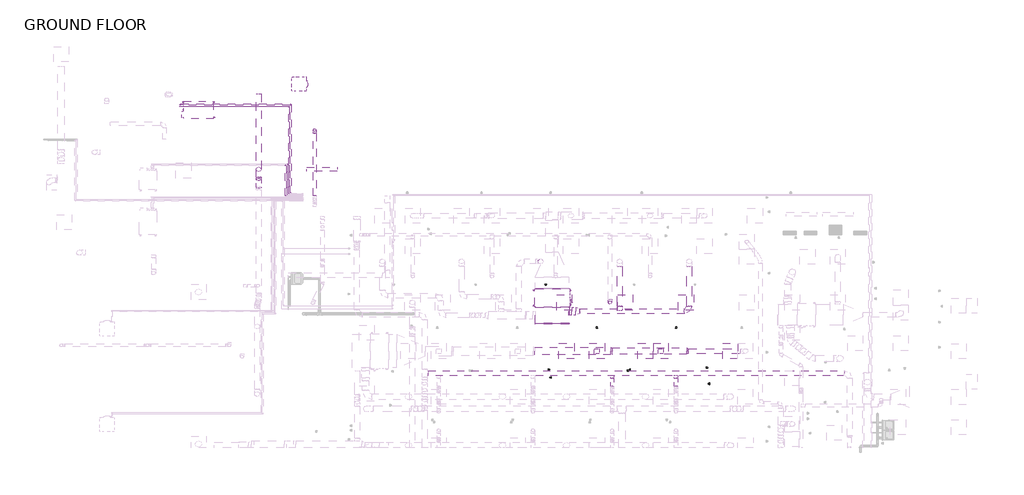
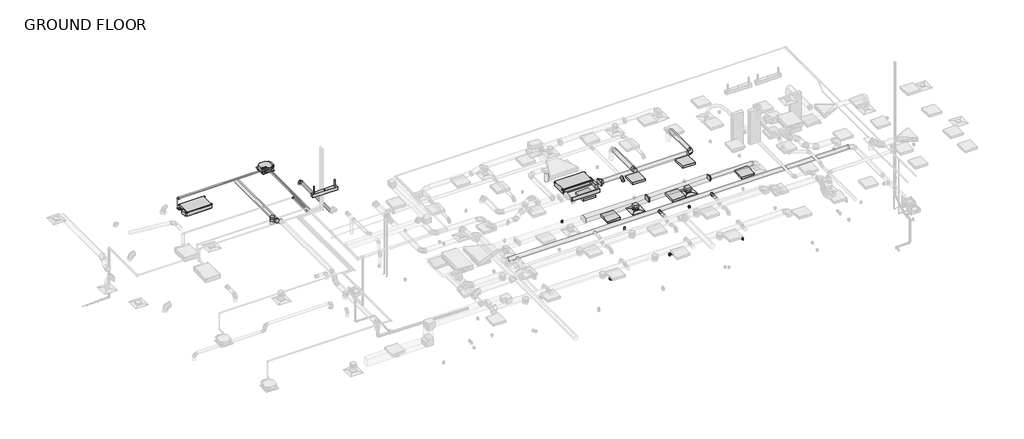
# One storey, part 17 of 21: 20 duct segments, 18 duct fittings, 10 pipe fittings, 9 proxies, 8 pipe segments, 7 light fixtures, 3 switching devices, 2 air terminals.
"""IFC4 building model written with IfcOpenShell, lengths in millimetres."""

from ifc_helpers import new_model, si_unit, point, frame, frame_2d, origin, place, context, project, spatial, polyline, circle_curve, trimmed, segment, composite_curve, outline, extrude, transform, mapped, element, save
from components import air_terminal_e9020785, mechanical_equipment_d478180c, mechanical_equipment_2d84379e, mechanical_equipment_2ac3c092, duplex_receptacle_countertop_10251bba, rectangular_endcap_standard_3ad2bc23, rectangular_takeoff_standard_68f80ab3, rectangular_takeoff_standard_d07ea574, rectangular_transition_angle_45_degree_4bc87dcf, rectangular_transition_angle_45_degree_1d311e81, rectangular_to_round_transition_angle_45_degree_8ccbb142, rectangular_to_round_transition_angle_45_degree_e9430680, rectangular_to_round_transition_angle_45_degree_5a025447, round_elbow_1_d_a253342a, round_elbow_1_d_c80420c1, round_elbow_1_d_e295ca55, round_takeoff_standard_272bb003, round_takeoff_standard_aff246af, suspended_fluorescent_strip_non_hosted_strip_light_1x4_120v_5197bc21, troffer_corner_insert_2x2_3lamp_e67c7f8f, elbow_generic_standard_c06ac706, elbow_generic_standard_738589b0, elbow_generic_standard_9ba8e076, elbow_generic_standard_698ab1fc, elbow_generic_standard_3fcd958e, elbow_generic_standard_371413ad, transition_generic_standard_b8cb4354, transition_generic_standard_d781b39e

model = new_model("IFC4")

# Units and contexts
model_context = context("Model", 3, world=origin())
ifc_project = project(units=[si_unit("LENGTHUNIT", "METRE", prefix="MILLI")], contexts=[model_context])

# Site, building, storey
site = spatial("IfcSite", under=ifc_project)
building = spatial("IfcBuilding", under=site)
storey = spatial("IfcBuildingStorey", under=building, Name="GROUND FLOOR", Elevation=30480.0)

# Air terminals
placement = place(None, origin())
air_terminal_shape = air_terminal_e9020785(model_context)
element("IfcAirTerminal", 1, ObjectType="Supply Diffuser - Rectangular Face Round Neck - Hosted : 24\"x24\" Face 8\" Neck - Hosted", at=placement, inside=storey, context=model_context, shape_type="MappedRepresentation", body=[
    mapped(air_terminal_shape, transform((2372.6795393, 1382.1195005, 33223.2), x_axis=(0.0, -1.0, 0.0), y_axis=(-1.0, 0.0, 0.0), z_axis=(0.0, 0.0, -1.0))),
])
element("IfcAirTerminal", 2, ObjectType="Supply Diffuser - Rectangular Face Round Neck - Hosted : 24\"x24\" Face 8\" Neck - Hosted", at=placement, inside=storey, context=model_context, shape_type="MappedRepresentation", body=[
    mapped(air_terminal_shape, transform((4938.0681472, 1382.1195005, 33223.2), x_axis=(0.0, -1.0, 0.0), y_axis=(-1.0, 0.0, 0.0), z_axis=(0.0, 0.0, -1.0))),
])

# Proxies
mechanical_equipment_shape = mechanical_equipment_d478180c(model_context)
element("IfcBuildingElementProxy", 3, Name="PEFY-P-NMAU-E_Medium_Static_Ducted : PEFY-P48NMAU-E", ObjectType="PEFY-P-NMAU-E_Medium_Static_Ducted : PEFY-P48NMAU-E", at=placement, inside=storey, context=model_context, shape_type="MappedRepresentation", body=[
    mapped(mechanical_equipment_shape, transform((586.0058148, 3462.779527, 33788.35), x_axis=(1.0, 0.0, 0.0), y_axis=(0.0, 1.0, 0.0), z_axis=(0.0, 0.0, 1.0))),
])
mechanical_equipment_2_shape = mechanical_equipment_2d84379e(model_context)
element("IfcBuildingElementProxy", 4, Name="PLFY-P-NCMU-E_4-way_24x24 : PLFY-P12NCMU-E", ObjectType="PLFY-P-NCMU-E_4-way_24x24 : PLFY-P12NCMU-E", at=placement, inside=storey, context=model_context, shape_type="MappedRepresentation", body=[
    mapped(mechanical_equipment_2_shape, transform((-9643.7370237, 12098.6958297, 33020.0), x_axis=(0.0, -1.0, 0.0), y_axis=(-1.0, 0.0, 0.0), z_axis=(0.0, 0.0, -1.0))),
])
mechanical_equipment_3_shape = mechanical_equipment_2ac3c092(model_context)
element("IfcBuildingElementProxy", 5, Name="PEFY-P-NMSU-E_Low_Profile_Ducted : PEFY-P24NMSU-E", ObjectType="PEFY-P-NMSU-E_Low_Profile_Ducted : PEFY-P24NMSU-E", at=placement, inside=storey, context=model_context, shape_type="MappedRepresentation", body=[
    mapped(mechanical_equipment_3_shape, transform((-13605.5079607, 11064.9671849, 33021.690625), x_axis=(-1.0, 0.0, 0.0), y_axis=(0.0, -1.0, 0.0), z_axis=(0.0, 0.0, 1.0))),
])
duplex_receptacle_countertop_shape = duplex_receptacle_countertop_10251bba(model_context)
element("IfcBuildingElementProxy", 6, Name="Duplex Receptacle : Standard", ObjectType="Duplex Receptacle : Standard", at=placement, inside=storey, context=model_context, shape_type="MappedRepresentation", body=[
    mapped(duplex_receptacle_countertop_shape, transform((6887.5295393, 71.4994744, 30937.2), x_axis=(0.0, 1.0, 0.0), y_axis=(0.0, 0.0, 1.0), z_axis=(1.0, 0.0, 0.0))),
])
element("IfcBuildingElementProxy", 7, Name="Duplex Receptacle : Standard", ObjectType="Duplex Receptacle : Standard", at=placement, inside=storey, context=model_context, shape_type="MappedRepresentation", body=[
    mapped(duplex_receptacle_countertop_shape, transform((6763.7045393, 721.6502033, 30937.2), x_axis=(0.0, -1.0, 0.0), y_axis=(0.0, 0.0, 1.0), z_axis=(-1.0, 0.0, 0.0))),
])
element("IfcBuildingElementProxy", 8, Name="Duplex Receptacle : Standard", ObjectType="Duplex Receptacle : Standard", at=placement, inside=storey, context=model_context, shape_type="MappedRepresentation", body=[
    mapped(duplex_receptacle_countertop_shape, transform((3715.7045393, 633.4941723, 30937.2), x_axis=(0.0, 1.0, 0.0), y_axis=(0.0, 0.0, 1.0), z_axis=(1.0, 0.0, 0.0))),
])
element("IfcBuildingElementProxy", 9, Name="Duplex Receptacle : Standard", ObjectType="Duplex Receptacle : Standard", at=placement, inside=storey, context=model_context, shape_type="MappedRepresentation", body=[
    mapped(duplex_receptacle_countertop_shape, transform((3591.8795393, 600.4356606, 30937.2), x_axis=(0.0, -1.0, 0.0), y_axis=(0.0, 0.0, 1.0), z_axis=(-1.0, 0.0, 0.0))),
])
element("IfcBuildingElementProxy", 10, Name="Duplex Receptacle : Standard", ObjectType="Duplex Receptacle : Standard", at=placement, inside=storey, context=model_context, shape_type="MappedRepresentation", body=[
    mapped(duplex_receptacle_countertop_shape, transform((420.0545393, 644.5136762, 30937.2), x_axis=(0.0, -1.0, 0.0), y_axis=(0.0, 0.0, 1.0), z_axis=(-1.0, 0.0, 0.0))),
])
element("IfcBuildingElementProxy", 11, Name="Duplex Receptacle : Standard", ObjectType="Duplex Receptacle : Standard", at=placement, inside=storey, context=model_context, shape_type="MappedRepresentation", body=[
    mapped(duplex_receptacle_countertop_shape, transform((543.8795393, 322.3410962, 30937.2), x_axis=(0.0, 1.0, 0.0), y_axis=(0.0, 0.0, 1.0), z_axis=(1.0, 0.0, 0.0))),
])

# Duct fittings
rectangular_endcap_standard_shape = rectangular_endcap_standard_3ad2bc23(model_context)
element("IfcDuctFitting", 12, ObjectType="Rectangular Endcap : Standard", at=placement, inside=storey, context=model_context, shape_type="MappedRepresentation", body=[
    mapped(rectangular_endcap_standard_shape, transform((575.9935718, 2491.3229089, 33947.89375), x_axis=(0.0, -1.0, 0.0), y_axis=(1.0, 0.0, 0.0), z_axis=(0.0, 0.0, 1.0))),
])
rectangular_takeoff_standard_shape = rectangular_takeoff_standard_68f80ab3(model_context)
element("IfcDuctFitting", 13, ObjectType="Rectangular Takeoff : Standard", at=placement, inside=storey, context=model_context, shape_type="MappedRepresentation", body=[
    mapped(rectangular_takeoff_standard_shape, transform((1253.8560718, 2984.6075456, 33947.89375), x_axis=(1.0, 0.0, 0.0), y_axis=(0.0, -1.0, 0.0), z_axis=(0.0, 0.0, -1.0))),
])
rectangular_takeoff_standard_2_shape = rectangular_takeoff_standard_d07ea574(model_context)
element("IfcDuctFitting", 14, ObjectType="Rectangular Takeoff : Standard", at=placement, inside=storey, context=model_context, shape_type="MappedRepresentation", body=[
    mapped(rectangular_takeoff_standard_2_shape, transform((4938.0681472, 1382.1195005, 33502.6), x_axis=(0.0, 0.0, -1.0), y_axis=(1.0, 0.0, 0.0), z_axis=(0.0, -1.0, 0.0))),
])
element("IfcDuctFitting", 15, ObjectType="Rectangular Takeoff : Standard", at=placement, inside=storey, context=model_context, shape_type="MappedRepresentation", body=[
    mapped(rectangular_takeoff_standard_2_shape, transform((2372.6795393, 1382.1195005, 33502.6), x_axis=(0.0, 0.0, -1.0), y_axis=(1.0, 0.0, 0.0), z_axis=(0.0, -1.0, 0.0))),
])
rectangular_transition_angle_45_degree_shape = rectangular_transition_angle_45_degree_4bc87dcf(model_context)
element("IfcDuctFitting", 16, ObjectType="Rectangular Transition - Angle : 45 Degree", at=placement, inside=storey, context=model_context, shape_type="MappedRepresentation", body=[
    mapped(rectangular_transition_angle_45_degree_shape, transform((575.9935718, 3891.404527, 33934.4), x_axis=(0.0, 1.0, 0.0), y_axis=(-1.0, 0.0, 0.0), z_axis=(0.0, 0.0, 1.0))),
])
rectangular_transition_angle_45_degree_2_shape = rectangular_transition_angle_45_degree_1d311e81(model_context)
element("IfcDuctFitting", 17, ObjectType="Rectangular Transition - Angle : 45 Degree", at=placement, inside=storey, context=model_context, shape_type="MappedRepresentation", body=[
    mapped(rectangular_transition_angle_45_degree_2_shape, transform((2934.6545393, 1382.1195005, 33604.2), x_axis=(1.0, 0.0, 0.0), y_axis=(0.0, 1.0, 0.0), z_axis=(0.0, 0.0, 1.0))),
])
rectangular_to_round_transition_angle_45_degree_shape = rectangular_to_round_transition_angle_45_degree_8ccbb142(model_context)
element("IfcDuctFitting", 18, ObjectType="Rectangular to Round Transition - Angle : 45 Degree", at=placement, inside=storey, context=model_context, shape_type="MappedRepresentation", body=[
    mapped(rectangular_to_round_transition_angle_45_degree_shape, transform((1530.4019781, 2984.6075456, 33947.89375), x_axis=(1.0, 0.0, 0.0), y_axis=(0.0, 1.0, 0.0), z_axis=(0.0, 0.0, 1.0))),
])
rectangular_to_round_transition_angle_45_degree_2_shape = rectangular_to_round_transition_angle_45_degree_e9430680(model_context)
element("IfcDuctFitting", 19, ObjectType="Rectangular to Round Transition - Angle : 45 Degree", at=placement, inside=storey, context=model_context, shape_type="MappedRepresentation", body=[
    mapped(rectangular_to_round_transition_angle_45_degree_2_shape, transform((5972.1335148, 1382.1195005, 33604.2), x_axis=(1.0, 0.0, 0.0), y_axis=(0.0, 1.0, 0.0), z_axis=(0.0, 0.0, 1.0))),
])
rectangular_to_round_transition_angle_45_degree_3_shape = rectangular_to_round_transition_angle_45_degree_5a025447(model_context)
element("IfcDuctFitting", 20, ObjectType="Rectangular to Round Transition - Angle : 45 Degree", at=placement, inside=storey, context=model_context, shape_type="MappedRepresentation", body=[
    mapped(rectangular_to_round_transition_angle_45_degree_3_shape, transform((4938.0681472, 1382.1195005, 33327.975), x_axis=(0.0, 0.0, -1.0), y_axis=(1.0, 0.0, 0.0), z_axis=(0.0, -1.0, 0.0))),
])
element("IfcDuctFitting", 21, ObjectType="Rectangular to Round Transition - Angle : 45 Degree", at=placement, inside=storey, context=model_context, shape_type="MappedRepresentation", body=[
    mapped(rectangular_to_round_transition_angle_45_degree_3_shape, transform((2372.6795393, 1382.1195005, 33327.975), x_axis=(0.0, 0.0, -1.0), y_axis=(1.0, 0.0, 0.0), z_axis=(0.0, -1.0, 0.0))),
])
round_elbow_1_d_shape = round_elbow_1_d_a253342a(model_context)
element("IfcDuctFitting", 22, ObjectType="Round Elbow : 1 D", at=placement, inside=storey, context=model_context, shape_type="MappedRepresentation", body=[
    mapped(round_elbow_1_d_shape, transform((6077.9045393, 2984.6075456, 33947.89375), x_axis=(1.0, 0.0, 0.0), y_axis=(0.0, 1.0, 0.0), z_axis=(0.0, 0.0, 1.0))),
])
round_elbow_1_d_2_shape = round_elbow_1_d_c80420c1(model_context)
element("IfcDuctFitting", 23, ObjectType="Round Elbow : 1 D", at=placement, inside=storey, context=model_context, shape_type="MappedRepresentation", body=[
    mapped(round_elbow_1_d_2_shape, transform((2896.5545393, 3334.7445005, 33464.5), x_axis=(0.0, -1.0, 0.0), y_axis=(0.0, 0.0, -1.0), z_axis=(1.0, 0.0, 0.0))),
])
element("IfcDuctFitting", 24, ObjectType="Round Elbow : 1 D", at=placement, inside=storey, context=model_context, shape_type="MappedRepresentation", body=[
    mapped(round_elbow_1_d_2_shape, transform((-8950.9579607, 10246.7195005, 33324.8), x_axis=(0.0, 0.0, 1.0), y_axis=(0.0, -1.0, 0.0), z_axis=(1.0, 0.0, 0.0))),
])
round_elbow_1_d_3_shape = round_elbow_1_d_e295ca55(model_context)
element("IfcDuctFitting", 25, ObjectType="Round Elbow : 1 D", at=placement, inside=storey, context=model_context, shape_type="MappedRepresentation", body=[
    mapped(round_elbow_1_d_3_shape, transform((-11194.8892107, 8307.3750179, 33197.8), x_axis=(0.0, -1.0, 0.0), y_axis=(0.0, 0.0, 1.0), z_axis=(-1.0, 0.0, 0.0))),
])
round_takeoff_standard_shape = round_takeoff_standard_272bb003(model_context)
element("IfcDuctFitting", 26, ObjectType="Round Takeoff : Standard", at=placement, inside=storey, context=model_context, shape_type="MappedRepresentation", body=[
    mapped(round_takeoff_standard_shape, transform((2982.2795393, 391.7414929, 33528.0), x_axis=(0.0, -1.0, 0.0), y_axis=(-1.0, 0.0, 0.0), z_axis=(0.0, 0.0, -1.0))),
])
element("IfcDuctFitting", 27, ObjectType="Round Takeoff : Standard", at=placement, inside=storey, context=model_context, shape_type="MappedRepresentation", body=[
    mapped(round_takeoff_standard_shape, transform((5547.6681472, 391.7414929, 33528.0), x_axis=(0.0, -1.0, 0.0), y_axis=(-1.0, 0.0, 0.0), z_axis=(0.0, 0.0, -1.0))),
])
round_takeoff_standard_2_shape = round_takeoff_standard_aff246af(model_context)
element("IfcDuctFitting", 28, ObjectType="Round Takeoff : Standard", at=placement, inside=storey, context=model_context, shape_type="MappedRepresentation", body=[
    mapped(round_takeoff_standard_2_shape, transform((3287.0795393, 3086.2075456, 33947.89375), x_axis=(0.0, 1.0, 0.0), y_axis=(1.0, 0.0, 0.0), z_axis=(0.0, 0.0, -1.0))),
])
element("IfcDuctFitting", 29, ObjectType="Round Takeoff : Standard", at=placement, inside=storey, context=model_context, shape_type="MappedRepresentation", body=[
    mapped(round_takeoff_standard_2_shape, transform((-11194.8892107, 8675.0945005, 33096.2), x_axis=(0.0, 0.0, -1.0), y_axis=(-1.0, 0.0, 0.0), z_axis=(0.0, 1.0, 0.0))),
])

# Duct segments
element("IfcDuctSegment", 30, ObjectType="Mitered Elbows / Taps", at=placement, inside=storey, context=model_context, shape_type="SweptSolid", body=[
    extrude(outline(polyline([(-128.2244362, 1229.7195005), (-128.2244362, 1534.5195005), (2934.6545393, 1534.5195005), (2934.6545393, 1229.7195005), (-128.2244362, 1229.7195005)])), frame((0.0, 0.0, 33502.6), z_axis=(0.0, 0.0, 1.0), x_axis=(1.0, 0.0, 0.0)), (0.0, 0.0, 1.0), 203.2),
])
element("IfcDuctSegment", 31, ObjectType="Mitered Elbows / Taps", at=placement, inside=storey, context=model_context, shape_type="SweptSolid", body=[
    extrude(outline(polyline([(2995.9755638, 1255.1195005), (2995.9755638, 1509.1195005), (5972.1335148, 1509.1195005), (5972.1335148, 1255.1195005), (2995.9755638, 1255.1195005)])), frame((0.0, 0.0, 33502.6), z_axis=(0.0, 0.0, 1.0), x_axis=(1.0, 0.0, 0.0)), (0.0, 0.0, 1.0), 203.2),
])
element("IfcDuctSegment", 32, ObjectType="Mitered Elbows / Taps", at=placement, inside=storey, context=model_context, shape_type="SweptSolid", body=[
    extrude(outline(polyline([(5039.6681472, 1280.5195005), (4836.4681472, 1280.5195005), (4836.4681472, 1483.7195005), (5039.6681472, 1483.7195005), (5039.6681472, 1280.5195005)])), frame((0.0, 0.0, 33327.975), z_axis=(0.0, 0.0, 1.0), x_axis=(1.0, 0.0, 0.0)), (0.0, 0.0, 1.0), 73.025),
])
element("IfcDuctSegment", 33, ObjectType="Mitered Elbows / Taps", at=placement, inside=storey, context=model_context, shape_type="SweptSolid", body=[
    extrude(outline(polyline([(2271.0795393, 1483.7195005), (2474.2795393, 1483.7195005), (2474.2795393, 1280.5195005), (2271.0795393, 1280.5195005), (2271.0795393, 1483.7195005)])), frame((0.0, 0.0, 33327.975), z_axis=(0.0, 0.0, 1.0), x_axis=(1.0, 0.0, 0.0)), (0.0, 0.0, 1.0), 73.025),
])
element("IfcDuctSegment", 34, ObjectType="Mitered Elbows / Taps", at=placement, inside=storey, context=model_context, shape_type="SweptSolid", body=[
    extrude(outline(polyline([(1530.4019781, 3149.7075456), (1530.4019781, 2819.5075456), (1355.4560718, 2819.5075456), (1355.4560718, 3149.7075456), (1530.4019781, 3149.7075456)])), frame((0.0, 0.0, 33858.99375), z_axis=(0.0, 0.0, 1.0), x_axis=(1.0, 0.0, 0.0)), (0.0, 0.0, 1.0), 177.8),
])
element("IfcDuctSegment", 35, ObjectType="Mitered Elbows / Tees", at=placement, inside=storey, context=model_context, shape_type="SweptSolid", body=[
    extrude(outline(polyline([(-101.8689282, 3145.279527), (1253.8560718, 3145.279527), (1253.8560718, 2491.3229089), (-101.8689282, 2491.3229089), (-101.8689282, 3145.279527)])), frame((0.0, 0.0, 33858.2), z_axis=(0.0, 0.0, 1.0), x_axis=(1.0, 0.0, 0.0)), (0.0, 0.0, 1.0), 179.3875),
])
element("IfcDuctSegment", 36, ObjectType="Taps / Short Radius", at=placement, inside=storey, context=model_context, shape_type="SweptSolid", body=[
    extrude(outline(composite_curve([segment(trimmed(circle_curve(frame_2d((33197.8, -11194.8892107)), 101.6), [point((33197.8, -11296.4892107))], [point((33096.2, -11194.8892107))], False, "CARTESIAN"), True, "CONTINUOUS"), segment(trimmed(circle_curve(frame_2d((33197.8, -11194.8892107)), 101.6), [point((33096.2, -11194.8892107))], [point((33197.8, -11093.2892107))], False, "CARTESIAN"), True, "CONTINUOUS"), segment(trimmed(circle_curve(frame_2d((33197.8, -11194.8892107)), 101.6), [point((33197.8, -11093.2892107))], [point((33299.4, -11194.8892107))], False, "CARTESIAN"), True, "CONTINUOUS"), segment(trimmed(circle_curve(frame_2d((33197.8, -11194.8892107)), 101.6), [point((33299.4, -11194.8892107))], [point((33197.8, -11296.4892107))], False, "CARTESIAN"), True, "CONTINUOUS")], self_intersect=False)), frame((0.0, 8356.2539246, 0.0), z_axis=(0.0, 1.0, 0.0), x_axis=(0.0, 0.0, 1.0)), (0.0, 0.0, 1.0), 3343.0588376),
])
element("IfcDuctSegment", 37, ObjectType="Taps / Short Radius", at=placement, inside=storey, context=model_context, shape_type="SweptSolid", body=[
    extrude(outline(composite_curve([segment(trimmed(circle_curve(frame_2d((0.0, 101.6)), 101.6), [point((-101.6, 101.6))], [point((0.0, 203.2))], False, "CARTESIAN"), True, "CONTINUOUS"), segment(trimmed(circle_curve(frame_2d((0.0, 101.6)), 101.6), [point((0.0, 203.2))], [point((101.6, 101.6))], False, "CARTESIAN"), True, "CONTINUOUS"), segment(trimmed(circle_curve(frame_2d((0.0, 101.6)), 101.6), [point((101.6, 101.6))], [point((0.0, 0.0))], False, "CARTESIAN"), True, "CONTINUOUS"), segment(trimmed(circle_curve(frame_2d((0.0, 101.6)), 101.6), [point((0.0, 0.0))], [point((-101.6, 101.6))], False, "CARTESIAN"), True, "CONTINUOUS")], self_intersect=False)), frame((-11194.8892107, 8217.6378472, 33129.5435153), z_axis=(0.0, -0.8906052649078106, 0.4547771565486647), x_axis=(1.0, 0.0, 0.0)), (0.0, 0.0, 1.0), 349.0544267),
])
element("IfcDuctSegment", 38, ObjectType="Taps / Short Radius", at=placement, inside=storey, context=model_context, shape_type="SweptSolid", body=[
    extrude(outline(composite_curve([segment(trimmed(circle_curve(frame_2d((1382.1195005, 33604.2)), 101.6), [point((1483.7195005, 33604.2))], [point((1382.1195005, 33502.6))], False, "CARTESIAN"), True, "CONTINUOUS"), segment(trimmed(circle_curve(frame_2d((1382.1195005, 33604.2)), 101.6), [point((1382.1195005, 33502.6))], [point((1280.5195005, 33604.2))], False, "CARTESIAN"), True, "CONTINUOUS"), segment(trimmed(circle_curve(frame_2d((1382.1195005, 33604.2)), 101.6), [point((1280.5195005, 33604.2))], [point((1382.1195005, 33705.8))], False, "CARTESIAN"), True, "CONTINUOUS"), segment(trimmed(circle_curve(frame_2d((1382.1195005, 33604.2)), 101.6), [point((1382.1195005, 33705.8))], [point((1483.7195005, 33604.2))], False, "CARTESIAN"), True, "CONTINUOUS")], self_intersect=False)), frame((6033.4545393, 0.0, 0.0), z_axis=(1.0, 0.0, 0.0), x_axis=(0.0, 1.0, 0.0)), (0.0, 0.0, 1.0), 2092.2126334),
])
element("IfcDuctSegment", 39, ObjectType="Taps / Short Radius", at=placement, inside=storey, context=model_context, shape_type="SweptSolid", body=[
    extrude(outline(composite_curve([segment(trimmed(circle_curve(frame_2d((115.2545393, 4982.5695005)), 101.6), [point((115.2545393, 5084.1695005))], [point((216.8545393, 4982.5695005))], False, "CARTESIAN"), True, "CONTINUOUS"), segment(trimmed(circle_curve(frame_2d((115.2545393, 4982.5695005)), 101.6), [point((216.8545393, 4982.5695005))], [point((115.2545393, 4880.9695005))], False, "CARTESIAN"), True, "CONTINUOUS"), segment(trimmed(circle_curve(frame_2d((115.2545393, 4982.5695005)), 101.6), [point((115.2545393, 4880.9695005))], [point((13.6545393, 4982.5695005))], False, "CARTESIAN"), True, "CONTINUOUS"), segment(trimmed(circle_curve(frame_2d((115.2545393, 4982.5695005)), 101.6), [point((13.6545393, 4982.5695005))], [point((115.2545393, 5084.1695005))], False, "CARTESIAN"), True, "CONTINUOUS")], self_intersect=False)), frame((0.0, 0.0, 33324.8), z_axis=(0.0, 0.0, 1.0), x_axis=(1.0, 0.0, 0.0)), (0.0, 0.0, 1.0), 419.89375),
])
element("IfcDuctSegment", 40, ObjectType="Taps / Short Radius", at=placement, inside=storey, context=model_context, shape_type="SweptSolid", body=[
    extrude(outline(composite_curve([segment(trimmed(circle_curve(frame_2d((2984.6075456, 33947.89375)), 101.6), [point((3086.2075456, 33947.89375))], [point((2984.6075456, 33846.29375))], False, "CARTESIAN"), True, "CONTINUOUS"), segment(trimmed(circle_curve(frame_2d((2984.6075456, 33947.89375)), 101.6), [point((2984.6075456, 33846.29375))], [point((2883.0075456, 33947.89375))], False, "CARTESIAN"), True, "CONTINUOUS"), segment(trimmed(circle_curve(frame_2d((2984.6075456, 33947.89375)), 101.6), [point((2883.0075456, 33947.89375))], [point((2984.6075456, 34049.49375))], False, "CARTESIAN"), True, "CONTINUOUS"), segment(trimmed(circle_curve(frame_2d((2984.6075456, 33947.89375)), 101.6), [point((2984.6075456, 34049.49375))], [point((3086.2075456, 33947.89375))], False, "CARTESIAN"), True, "CONTINUOUS")], self_intersect=False)), frame((1683.7045393, 0.0, 0.0), z_axis=(1.0, 0.0, 0.0), x_axis=(0.0, 1.0, 0.0)), (0.0, 0.0, 1.0), 4191.0),
])
element("IfcDuctSegment", 41, ObjectType="Taps / Short Radius", at=placement, inside=storey, context=model_context, shape_type="SweptSolid", body=[
    extrude(outline(composite_curve([segment(trimmed(circle_curve(frame_2d((33947.89375, 6077.9045393)), 101.6), [point((33947.89375, 5976.3045393))], [point((33846.29375, 6077.9045393))], False, "CARTESIAN"), True, "CONTINUOUS"), segment(trimmed(circle_curve(frame_2d((33947.89375, 6077.9045393)), 101.6), [point((33846.29375, 6077.9045393))], [point((33947.89375, 6179.5045393))], False, "CARTESIAN"), True, "CONTINUOUS"), segment(trimmed(circle_curve(frame_2d((33947.89375, 6077.9045393)), 101.6), [point((33947.89375, 6179.5045393))], [point((34049.49375, 6077.9045393))], False, "CARTESIAN"), True, "CONTINUOUS"), segment(trimmed(circle_curve(frame_2d((33947.89375, 6077.9045393)), 101.6), [point((34049.49375, 6077.9045393))], [point((33947.89375, 5976.3045393))], False, "CARTESIAN"), True, "CONTINUOUS")], self_intersect=False)), frame((0.0, 3187.8075456, 0.0), z_axis=(0.0, 1.0, 0.0), x_axis=(0.0, 0.0, 1.0)), (0.0, 0.0, 1.0), 1591.5619549),
])
element("IfcDuctSegment", 42, ObjectType="Taps / Short Radius", at=placement, inside=storey, context=model_context, shape_type="SweptSolid", body=[
    extrude(outline(composite_curve([segment(trimmed(circle_curve(frame_2d((33947.89375, 3287.0795393)), 101.6), [point((33947.89375, 3185.4795393))], [point((33846.29375, 3287.0795393))], False, "CARTESIAN"), True, "CONTINUOUS"), segment(trimmed(circle_curve(frame_2d((33947.89375, 3287.0795393)), 101.6), [point((33846.29375, 3287.0795393))], [point((33947.89375, 3388.6795393))], False, "CARTESIAN"), True, "CONTINUOUS"), segment(trimmed(circle_curve(frame_2d((33947.89375, 3287.0795393)), 101.6), [point((33947.89375, 3388.6795393))], [point((34049.49375, 3287.0795393))], False, "CARTESIAN"), True, "CONTINUOUS"), segment(trimmed(circle_curve(frame_2d((33947.89375, 3287.0795393)), 101.6), [point((34049.49375, 3287.0795393))], [point((33947.89375, 3185.4795393))], False, "CARTESIAN"), True, "CONTINUOUS")], self_intersect=False)), frame((0.0, 3187.8075456, 0.0), z_axis=(0.0, 1.0, 0.0), x_axis=(0.0, 0.0, 1.0)), (0.0, 0.0, 1.0), 1591.5619549),
])
element("IfcDuctSegment", 43, ObjectType="Taps / Short Radius", at=placement, inside=storey, context=model_context, shape_type="SweptSolid", body=[
    extrude(outline(composite_curve([segment(trimmed(circle_curve(frame_2d((0.0, 63.5)), 63.5), [point((-63.5, 63.5))], [point((0.0, 127.0))], False, "CARTESIAN"), True, "CONTINUOUS"), segment(trimmed(circle_curve(frame_2d((0.0, 63.5)), 63.5), [point((0.0, 127.0))], [point((63.5, 63.5))], False, "CARTESIAN"), True, "CONTINUOUS"), segment(trimmed(circle_curve(frame_2d((0.0, 63.5)), 63.5), [point((63.5, 63.5))], [point((0.0, 0.0))], False, "CARTESIAN"), True, "CONTINUOUS"), segment(trimmed(circle_curve(frame_2d((0.0, 63.5)), 63.5), [point((0.0, 0.0))], [point((-63.5, 63.5))], False, "CARTESIAN"), True, "CONTINUOUS")], self_intersect=False)), frame((2896.5545393, 3271.2445005, 33324.8), z_axis=(0.0, -1.0231815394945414e-12, 1.0), x_axis=(1.0, 0.0, 0.0)), (0.0, 0.0, 1.0), 12.7),
])
element("IfcDuctSegment", 44, ObjectType="Taps / Short Radius", at=placement, inside=storey, context=model_context, shape_type="SweptSolid", body=[
    extrude(outline(composite_curve([segment(trimmed(circle_curve(frame_2d((-11194.8892107, 8675.0945005)), 101.6), [point((-11296.4892107, 8675.0945005))], [point((-11194.8892107, 8776.6945005))], False, "CARTESIAN"), True, "CONTINUOUS"), segment(trimmed(circle_curve(frame_2d((-11194.8892107, 8675.0945005)), 101.6), [point((-11194.8892107, 8776.6945005))], [point((-11093.2892107, 8675.0945005))], False, "CARTESIAN"), True, "CONTINUOUS"), segment(trimmed(circle_curve(frame_2d((-11194.8892107, 8675.0945005)), 101.6), [point((-11093.2892107, 8675.0945005))], [point((-11194.8892107, 8573.4945005))], False, "CARTESIAN"), True, "CONTINUOUS"), segment(trimmed(circle_curve(frame_2d((-11194.8892107, 8675.0945005)), 101.6), [point((-11194.8892107, 8573.4945005))], [point((-11296.4892107, 8675.0945005))], False, "CARTESIAN"), True, "CONTINUOUS")], self_intersect=False)), frame((0.0, 0.0, 32816.8), z_axis=(0.0, 0.0, 1.0), x_axis=(1.0, 0.0, 0.0)), (0.0, 0.0, 1.0), 177.8),
])
element("IfcDuctSegment", 45, ObjectType="Taps / Short Radius", at=placement, inside=storey, context=model_context, shape_type="SweptSolid", body=[
    extrude(outline(composite_curve([segment(trimmed(circle_curve(frame_2d((33324.8, -8950.9579607)), 63.5), [point((33324.8, -9014.4579607))], [point((33261.3, -8950.9579607))], False, "CARTESIAN"), True, "CONTINUOUS"), segment(trimmed(circle_curve(frame_2d((33324.8, -8950.9579607)), 63.5), [point((33261.3, -8950.9579607))], [point((33324.8, -8887.4579607))], False, "CARTESIAN"), True, "CONTINUOUS"), segment(trimmed(circle_curve(frame_2d((33324.8, -8950.9579607)), 63.5), [point((33324.8, -8887.4579607))], [point((33388.3, -8950.9579607))], False, "CARTESIAN"), True, "CONTINUOUS"), segment(trimmed(circle_curve(frame_2d((33324.8, -8950.9579607)), 63.5), [point((33388.3, -8950.9579607))], [point((33324.8, -9014.4579607))], False, "CARTESIAN"), True, "CONTINUOUS")], self_intersect=False)), frame((0.0, 7605.1195005, 0.0), z_axis=(0.0, 1.0, 0.0), x_axis=(0.0, 0.0, 1.0)), (0.0, 0.0, 1.0), 2514.6),
])
element("IfcDuctSegment", 46, ObjectType="Taps / Short Radius", at=placement, inside=storey, context=model_context, shape_type="SweptSolid", body=[
    extrude(outline(composite_curve([segment(trimmed(circle_curve(frame_2d((-8950.9579607, 10246.7195005)), 63.5), [point((-9014.4579607, 10246.7195005))], [point((-8950.9579607, 10310.2195005))], False, "CARTESIAN"), True, "CONTINUOUS"), segment(trimmed(circle_curve(frame_2d((-8950.9579607, 10246.7195005)), 63.5), [point((-8950.9579607, 10310.2195005))], [point((-8887.4579607, 10246.7195005))], False, "CARTESIAN"), True, "CONTINUOUS"), segment(trimmed(circle_curve(frame_2d((-8950.9579607, 10246.7195005)), 63.5), [point((-8887.4579607, 10246.7195005))], [point((-8950.9579607, 10183.2195005))], False, "CARTESIAN"), True, "CONTINUOUS"), segment(trimmed(circle_curve(frame_2d((-8950.9579607, 10246.7195005)), 63.5), [point((-8950.9579607, 10183.2195005))], [point((-9014.4579607, 10246.7195005))], False, "CARTESIAN"), True, "CONTINUOUS")], self_intersect=False)), frame((0.0, 0.0, 33121.6), z_axis=(0.0, 0.0, 1.0), x_axis=(1.0, 0.0, 0.0)), (0.0, 0.0, 1.0), 76.2),
])
element("IfcDuctSegment", 47, ObjectType="Taps / Short Radius", at=placement, inside=storey, context=model_context, shape_type="SweptSolid", body=[
    extrude(outline(composite_curve([segment(trimmed(circle_curve(frame_2d((493.3414929, 33528.0)), 101.6), [point((594.9414929, 33528.0))], [point((493.3414929, 33426.4))], False, "CARTESIAN"), True, "CONTINUOUS"), segment(trimmed(circle_curve(frame_2d((493.3414929, 33528.0)), 101.6), [point((493.3414929, 33426.4))], [point((391.7414929, 33528.0))], False, "CARTESIAN"), True, "CONTINUOUS"), segment(trimmed(circle_curve(frame_2d((493.3414929, 33528.0)), 101.6), [point((391.7414929, 33528.0))], [point((493.3414929, 33629.6))], False, "CARTESIAN"), True, "CONTINUOUS"), segment(trimmed(circle_curve(frame_2d((493.3414929, 33528.0)), 101.6), [point((493.3414929, 33629.6))], [point((594.9414929, 33528.0))], False, "CARTESIAN"), True, "CONTINUOUS")], self_intersect=False)), frame((-4389.576464, 0.0, 0.0), z_axis=(1.0, 0.0, 0.0), x_axis=(0.0, 1.0, 0.0)), (0.0, 0.0, 1.0), 16693.6560033),
])
element("IfcDuctSegment", 48, ObjectType="Taps / Short Radius", at=placement, inside=storey, context=model_context, shape_type="SweptSolid", body=[
    extrude(outline(composite_curve([segment(trimmed(circle_curve(frame_2d((33528.0, 2982.2795393)), 63.5), [point((33528.0, 3045.7795393))], [point((33591.5, 2982.2795393))], False, "CARTESIAN"), True, "CONTINUOUS"), segment(trimmed(circle_curve(frame_2d((33528.0, 2982.2795393)), 63.5), [point((33591.5, 2982.2795393))], [point((33528.0, 2918.7795393))], False, "CARTESIAN"), True, "CONTINUOUS"), segment(trimmed(circle_curve(frame_2d((33528.0, 2982.2795393)), 63.5), [point((33528.0, 2918.7795393))], [point((33464.5, 2982.2795393))], False, "CARTESIAN"), True, "CONTINUOUS"), segment(trimmed(circle_curve(frame_2d((33528.0, 2982.2795393)), 63.5), [point((33464.5, 2982.2795393))], [point((33528.0, 3045.7795393))], False, "CARTESIAN"), True, "CONTINUOUS")], self_intersect=False)), frame((0.0, -23.6803249, 0.0), z_axis=(0.0, 1.0, 0.0), x_axis=(0.0, 0.0, 1.0)), (0.0, 0.0, 1.0), 313.8218179),
])
element("IfcDuctSegment", 49, ObjectType="Taps / Short Radius", at=placement, inside=storey, context=model_context, shape_type="SweptSolid", body=[
    extrude(outline(composite_curve([segment(trimmed(circle_curve(frame_2d((33528.0, 5547.6681472)), 63.5), [point((33528.0, 5611.1681472))], [point((33591.5, 5547.6681472))], False, "CARTESIAN"), True, "CONTINUOUS"), segment(trimmed(circle_curve(frame_2d((33528.0, 5547.6681472)), 63.5), [point((33591.5, 5547.6681472))], [point((33528.0, 5484.1681472))], False, "CARTESIAN"), True, "CONTINUOUS"), segment(trimmed(circle_curve(frame_2d((33528.0, 5547.6681472)), 63.5), [point((33528.0, 5484.1681472))], [point((33464.5, 5547.6681472))], False, "CARTESIAN"), True, "CONTINUOUS"), segment(trimmed(circle_curve(frame_2d((33528.0, 5547.6681472)), 63.5), [point((33464.5, 5547.6681472))], [point((33528.0, 5611.1681472))], False, "CARTESIAN"), True, "CONTINUOUS")], self_intersect=False)), frame((0.0, -23.6803249, 0.0), z_axis=(0.0, 1.0, 0.0), x_axis=(0.0, 0.0, 1.0)), (0.0, 0.0, 1.0), 313.8218179),
])

# Light fixtures
suspended_fluorescent_strip_non_hosted_strip_light_1x4_120v_shape = suspended_fluorescent_strip_non_hosted_strip_light_1x4_120v_5197bc21(model_context)
element("IfcLightFixture", 50, ObjectType="Suspended Fluorescent Strip - Non-Hosted : Strip Light 1x4 - 120V Normal", at=placement, inside=storey, context=model_context, shape_type="MappedRepresentation", body=[
    mapped(suspended_fluorescent_strip_non_hosted_strip_light_1x4_120v_shape, transform((-8654.6826756, 8675.0945005, 33528.0), x_axis=(1.0, 0.0, 0.0), y_axis=(0.0, 1.0, 0.0), z_axis=(0.0, 0.0, 1.0))),
])
troffer_corner_insert_2x2_3lamp_shape = troffer_corner_insert_2x2_3lamp_e67c7f8f(model_context)
element("IfcLightFixture", 51, ObjectType="Troffer Corner Insert : 2x2 3Lamp", at=placement, inside=storey, context=model_context, shape_type="MappedRepresentation", body=[
    mapped(troffer_corner_insert_2x2_3lamp_shape, transform((1067.7545393, 3334.7445005, 30784.8), x_axis=(1.0, 0.0, 0.0), y_axis=(0.0, 1.0, 0.0), z_axis=(0.0, 0.0, 1.0))),
])
element("IfcLightFixture", 52, ObjectType="Troffer Corner Insert : 2x2 3Lamp", at=placement, inside=storey, context=model_context, shape_type="MappedRepresentation", body=[
    mapped(troffer_corner_insert_2x2_3lamp_shape, transform((3506.1545393, 3334.7445005, 30784.8), x_axis=(1.0, 0.0, 0.0), y_axis=(0.0, 1.0, 0.0), z_axis=(0.0, 0.0, 1.0))),
])
element("IfcLightFixture", 53, ObjectType="Troffer Corner Insert : 2x2 3Lamp", at=placement, inside=storey, context=model_context, shape_type="MappedRepresentation", body=[
    mapped(troffer_corner_insert_2x2_3lamp_shape, transform((5944.5545393, 3334.7445005, 30784.8), x_axis=(1.0, 0.0, 0.0), y_axis=(0.0, 1.0, 0.0), z_axis=(0.0, 0.0, 1.0))),
])
element("IfcLightFixture", 54, ObjectType="Troffer Corner Insert : 2x2 3Lamp", at=placement, inside=storey, context=model_context, shape_type="MappedRepresentation", body=[
    mapped(troffer_corner_insert_2x2_3lamp_shape, transform((1153.4795393, 1382.1195005, 30784.8), x_axis=(1.0, 0.0, 0.0), y_axis=(0.0, 1.0, 0.0), z_axis=(0.0, 0.0, 1.0))),
])
element("IfcLightFixture", 55, ObjectType="Troffer Corner Insert : 2x2 3Lamp", at=placement, inside=storey, context=model_context, shape_type="MappedRepresentation", body=[
    mapped(troffer_corner_insert_2x2_3lamp_shape, transform((4325.3045393, 1382.1195005, 30784.8), x_axis=(1.0, 0.0, 0.0), y_axis=(0.0, 1.0, 0.0), z_axis=(0.0, 0.0, 1.0))),
])
element("IfcLightFixture", 56, ObjectType="Troffer Corner Insert : 2x2 3Lamp", at=placement, inside=storey, context=model_context, shape_type="MappedRepresentation", body=[
    mapped(troffer_corner_insert_2x2_3lamp_shape, transform((7719.2671727, 1382.1195005, 30784.8), x_axis=(1.0, 0.0, 0.0), y_axis=(0.0, 1.0, 0.0), z_axis=(0.0, 0.0, 1.0))),
])

# Pipe fittings
elbow_generic_standard_shape = elbow_generic_standard_c06ac706(model_context)
element("IfcPipeFitting", 57, ObjectType="Elbow - Generic : Standard", at=placement, inside=storey, context=model_context, shape_type="MappedRepresentation", body=[
    mapped(elbow_generic_standard_shape, transform((-10108.9967002, 8840.3395774, 33680.4), x_axis=(0.0, 1.0, 0.0), y_axis=(-1.0, 0.0, 0.0), z_axis=(0.0, 0.0, 1.0))),
])
elbow_generic_standard_2_shape = elbow_generic_standard_738589b0(model_context)
element("IfcPipeFitting", 58, ObjectType="Elbow - Generic : Standard", at=placement, inside=storey, context=model_context, shape_type="MappedRepresentation", body=[
    mapped(elbow_generic_standard_2_shape, transform((-14343.6452537, 11191.5268827, 33680.4), x_axis=(0.0, 0.0, 1.0), y_axis=(1.0, 0.0, 0.0), z_axis=(0.0, 1.0, 0.0))),
])
element("IfcPipeFitting", 59, ObjectType="Elbow - Generic : Standard", at=placement, inside=storey, context=model_context, shape_type="MappedRepresentation", body=[
    mapped(elbow_generic_standard_2_shape, transform((-9971.0694154, 11191.5268827, 33680.4), x_axis=(0.0, 1.0, 0.0), y_axis=(-1.0, 0.0, 0.0), z_axis=(0.0, 0.0, 1.0))),
])
element("IfcPipeFitting", 60, ObjectType="Elbow - Generic : Standard", at=placement, inside=storey, context=model_context, shape_type="MappedRepresentation", body=[
    mapped(elbow_generic_standard_2_shape, transform((-10040.0330578, 8891.1395782, 33680.4), x_axis=(0.0, 1.0, 0.0), y_axis=(-1.0, 0.0, 0.0), z_axis=(0.0, 0.0, 1.0))),
])
elbow_generic_standard_3_shape = elbow_generic_standard_9ba8e076(model_context)
element("IfcPipeFitting", 61, ObjectType="Elbow - Generic : Standard", at=placement, inside=storey, context=model_context, shape_type="MappedRepresentation", body=[
    mapped(elbow_generic_standard_3_shape, transform((-14343.6452537, 11191.5268827, 33121.690625), x_axis=(-1.0, 0.0, 0.0), y_axis=(0.0, 0.0, 1.0), z_axis=(0.0, 1.0, 0.0))),
])
elbow_generic_standard_4_shape = elbow_generic_standard_698ab1fc(model_context)
element("IfcPipeFitting", 62, ObjectType="Elbow - Generic : Standard", at=placement, inside=storey, context=model_context, shape_type="MappedRepresentation", body=[
    mapped(elbow_generic_standard_4_shape, transform((-14350.0454441, 11274.7212423, 33121.690625), x_axis=(-1.0, 0.0, 0.0), y_axis=(0.0, 0.0, 1.0), z_axis=(0.0, 1.0, 0.0))),
])
elbow_generic_standard_5_shape = elbow_generic_standard_3fcd958e(model_context)
element("IfcPipeFitting", 63, ObjectType="Elbow - Generic : Standard", at=placement, inside=storey, context=model_context, shape_type="MappedRepresentation", body=[
    mapped(elbow_generic_standard_5_shape, transform((-14350.0448515, 11274.7212423, 33680.3914063), x_axis=(0.0, 0.0, 1.0), y_axis=(1.0, 0.0, 0.0), z_axis=(0.0, 1.0, 0.0))),
])
elbow_generic_standard_6_shape = elbow_generic_standard_371413ad(model_context)
element("IfcPipeFitting", 64, ObjectType="Elbow - Generic : Standard", at=placement, inside=storey, context=model_context, shape_type="MappedRepresentation", body=[
    mapped(elbow_generic_standard_6_shape, transform((-9902.105773, 11274.7212423, 33680.4), x_axis=(0.0, 1.0, 0.0), y_axis=(-0.9999999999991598, 0.0, -1.2963089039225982e-06), z_axis=(-1.2963089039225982e-06, 0.0, 0.9999999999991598))),
])
transition_generic_standard_shape = transition_generic_standard_b8cb4354(model_context)
element("IfcPipeFitting", 65, ObjectType="Transition - Generic : Standard", at=placement, inside=storey, context=model_context, shape_type="MappedRepresentation", body=[
    mapped(transition_generic_standard_shape, transform((-14343.6452537, 11191.5268827, 33139.128125), x_axis=(0.0, 0.0, 1.0), y_axis=(0.0, 1.0, 0.0), z_axis=(-1.0, 0.0, 0.0))),
])
transition_generic_standard_2_shape = transition_generic_standard_d781b39e(model_context)
element("IfcPipeFitting", 66, ObjectType="Transition - Generic : Standard", at=placement, inside=storey, context=model_context, shape_type="MappedRepresentation", body=[
    mapped(transition_generic_standard_2_shape, transform((-14350.0454441, 11274.7212423, 33145.528125), x_axis=(0.0, 0.0, 1.0), y_axis=(0.0, 1.0, 0.0), z_axis=(-1.0, 0.0, 0.0))),
])

# Pipe segments
element("IfcPipeSegment", 67, ObjectType="Copper", at=placement, inside=storey, context=model_context, shape_type="SweptSolid", body=[
    extrude(outline(composite_curve([segment(trimmed(circle_curve(frame_2d((0.0, 20.6375)), 20.6375), [point((-20.6375, 20.6375))], [point((0.0, 41.275))], False, "CARTESIAN"), True, "CONTINUOUS"), segment(trimmed(circle_curve(frame_2d((0.0, 20.6375)), 20.6375), [point((0.0, 41.275))], [point((20.6375, 20.6375))], False, "CARTESIAN"), True, "CONTINUOUS"), segment(trimmed(circle_curve(frame_2d((0.0, 20.6375)), 20.6375), [point((20.6375, 20.6375))], [point((0.0, 0.0))], False, "CARTESIAN"), True, "CONTINUOUS"), segment(trimmed(circle_curve(frame_2d((0.0, 20.6375)), 20.6375), [point((0.0, 0.0))], [point((-20.6375, 20.6375))], False, "CARTESIAN"), True, "CONTINUOUS")], self_intersect=False)), frame((-14350.0454441, 11254.0837423, 33155.846875), z_axis=(1.1911870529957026e-06, 0.0, 0.9999999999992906), x_axis=(0.9999999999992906, 0.0, -1.1911870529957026e-06)), (0.0, 0.0, 1.0), 497.5570662),
])
element("IfcPipeSegment", 68, ObjectType="Copper", at=placement, inside=storey, context=model_context, shape_type="SweptSolid", body=[
    extrude(outline(composite_curve([segment(trimmed(circle_curve(frame_2d((11274.7212423, 33121.690625)), 15.9), [point((11290.6212423, 33121.690625))], [point((11274.7212423, 33105.790625))], False, "CARTESIAN"), True, "CONTINUOUS"), segment(trimmed(circle_curve(frame_2d((11274.7212423, 33121.690625)), 15.9), [point((11274.7212423, 33105.790625))], [point((11258.8212423, 33121.690625))], False, "CARTESIAN"), True, "CONTINUOUS"), segment(trimmed(circle_curve(frame_2d((11274.7212423, 33121.690625)), 15.9), [point((11258.8212423, 33121.690625))], [point((11274.7212423, 33137.590625))], False, "CARTESIAN"), True, "CONTINUOUS"), segment(trimmed(circle_curve(frame_2d((11274.7212423, 33121.690625)), 15.9), [point((11274.7212423, 33137.590625))], [point((11290.6212423, 33121.690625))], False, "CARTESIAN"), True, "CONTINUOUS")], self_intersect=False)), frame((-14326.2079441, 0.0, 0.0), z_axis=(1.0, 0.0, 0.0), x_axis=(0.0, 1.0, 0.0)), (0.0, 0.0, 1.0), 25.3999834),
])
element("IfcPipeSegment", 69, ObjectType="Copper", at=placement, inside=storey, context=model_context, shape_type="SweptSolid", body=[
    extrude(outline(composite_curve([segment(trimmed(circle_curve(frame_2d((0.0, 20.6375)), 20.6375), [point((-20.6375, 20.6375))], [point((0.0, 41.275))], False, "CARTESIAN"), True, "CONTINUOUS"), segment(trimmed(circle_curve(frame_2d((0.0, 20.6375)), 20.6375), [point((0.0, 41.275))], [point((20.6375, 20.6375))], False, "CARTESIAN"), True, "CONTINUOUS"), segment(trimmed(circle_curve(frame_2d((0.0, 20.6375)), 20.6375), [point((20.6375, 20.6375))], [point((0.0, 0.0))], False, "CARTESIAN"), True, "CONTINUOUS"), segment(trimmed(circle_curve(frame_2d((0.0, 20.6375)), 20.6375), [point((0.0, 0.0))], [point((-20.6375, 20.6375))], False, "CARTESIAN"), True, "CONTINUOUS")], self_intersect=False)), frame((-14323.0573464, 11274.7212423, 33659.7539412), z_axis=(0.9999999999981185, 0.0, 1.9398841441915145e-06), x_axis=(0.0, 1.0, 0.0)), (0.0, 0.0, 1.0), 4393.9641135),
])
element("IfcPipeSegment", 70, ObjectType="Copper", at=placement, inside=storey, context=model_context, shape_type="SweptSolid", body=[
    extrude(outline(composite_curve([segment(trimmed(circle_curve(frame_2d((33680.4, -9902.105773)), 20.6375), [point((33680.4, -9922.743273))], [point((33659.7625, -9902.105773))], False, "CARTESIAN"), True, "CONTINUOUS"), segment(trimmed(circle_curve(frame_2d((33680.4, -9902.105773)), 20.6375), [point((33659.7625, -9902.105773))], [point((33680.4, -9881.468273))], False, "CARTESIAN"), True, "CONTINUOUS"), segment(trimmed(circle_curve(frame_2d((33680.4, -9902.105773)), 20.6375), [point((33680.4, -9881.468273))], [point((33701.0375, -9902.105773))], False, "CARTESIAN"), True, "CONTINUOUS"), segment(trimmed(circle_curve(frame_2d((33680.4, -9902.105773)), 20.6375), [point((33701.0375, -9902.105773))], [point((33680.4, -9922.743273))], False, "CARTESIAN"), True, "CONTINUOUS")], self_intersect=False)), frame((0.0, 7730.4790784, 0.0), z_axis=(0.0, 1.0, 0.0), x_axis=(0.0, 0.0, 1.0)), (0.0, 0.0, 1.0), 3517.2546639),
])
element("IfcPipeSegment", 71, ObjectType="Copper", at=placement, inside=storey, context=model_context, shape_type="SweptSolid", body=[
    extrude(outline(composite_curve([segment(trimmed(circle_curve(frame_2d((11191.5268827, 33680.4)), 11.1125), [point((11180.4143827, 33680.4))], [point((11191.5268827, 33691.5125))], False, "CARTESIAN"), True, "CONTINUOUS"), segment(trimmed(circle_curve(frame_2d((11191.5268827, 33680.4)), 11.1125), [point((11191.5268827, 33691.5125))], [point((11202.6393827, 33680.4))], False, "CARTESIAN"), True, "CONTINUOUS"), segment(trimmed(circle_curve(frame_2d((11191.5268827, 33680.4)), 11.1125), [point((11202.6393827, 33680.4))], [point((11191.5268827, 33669.2875))], False, "CARTESIAN"), True, "CONTINUOUS"), segment(trimmed(circle_curve(frame_2d((11191.5268827, 33680.4)), 11.1125), [point((11191.5268827, 33669.2875))], [point((11180.4143827, 33680.4))], False, "CARTESIAN"), True, "CONTINUOUS")], self_intersect=False)), frame((-14326.1827537, 0.0, 0.0), z_axis=(1.0, 0.0, 0.0), x_axis=(0.0, 1.0, 0.0)), (0.0, 0.0, 1.0), 4337.6508384),
])
element("IfcPipeSegment", 72, ObjectType="Copper", at=placement, inside=storey, context=model_context, shape_type="SweptSolid", body=[
    extrude(outline(composite_curve([segment(trimmed(circle_curve(frame_2d((33680.4, -9971.0694154)), 11.1125), [point((33680.4, -9982.1819154))], [point((33669.2875, -9971.0694154))], False, "CARTESIAN"), True, "CONTINUOUS"), segment(trimmed(circle_curve(frame_2d((33680.4, -9971.0694154)), 11.1125), [point((33669.2875, -9971.0694154))], [point((33680.4, -9959.9569154))], False, "CARTESIAN"), True, "CONTINUOUS"), segment(trimmed(circle_curve(frame_2d((33680.4, -9971.0694154)), 11.1125), [point((33680.4, -9959.9569154))], [point((33691.5125, -9971.0694154))], False, "CARTESIAN"), True, "CONTINUOUS"), segment(trimmed(circle_curve(frame_2d((33680.4, -9971.0694154)), 11.1125), [point((33691.5125, -9971.0694154))], [point((33680.4, -9982.1819154))], False, "CARTESIAN"), True, "CONTINUOUS")], self_intersect=False)), frame((0.0, 7684.0947539, 0.0), z_axis=(0.0, 1.0, 0.0), x_axis=(0.0, 0.0, 1.0)), (0.0, 0.0, 1.0), 3489.9696289),
])
element("IfcPipeSegment", 73, ObjectType="Copper", at=placement, inside=storey, context=model_context, shape_type="SweptSolid", body=[
    extrude(outline(composite_curve([segment(trimmed(circle_curve(frame_2d((33680.4, -10108.9967002)), 14.2875), [point((33680.4, -10123.2842002))], [point((33666.1125, -10108.9967002))], False, "CARTESIAN"), True, "CONTINUOUS"), segment(trimmed(circle_curve(frame_2d((33680.4, -10108.9967002)), 14.2875), [point((33666.1125, -10108.9967002))], [point((33680.4, -10094.7092002))], False, "CARTESIAN"), True, "CONTINUOUS"), segment(trimmed(circle_curve(frame_2d((33680.4, -10108.9967002)), 14.2875), [point((33680.4, -10094.7092002))], [point((33694.6875, -10108.9967002))], False, "CARTESIAN"), True, "CONTINUOUS"), segment(trimmed(circle_curve(frame_2d((33680.4, -10108.9967002)), 14.2875), [point((33694.6875, -10108.9967002))], [point((33680.4, -10123.2842002))], False, "CARTESIAN"), True, "CONTINUOUS")], self_intersect=False)), frame((0.0, 7621.2976211, 0.0), z_axis=(0.0, 1.0, 0.0), x_axis=(0.0, 0.0, 1.0)), (0.0, 0.0, 1.0), 1198.4044563),
])
element("IfcPipeSegment", 74, ObjectType="Copper", at=placement, inside=storey, context=model_context, shape_type="SweptSolid", body=[
    extrude(outline(composite_curve([segment(trimmed(circle_curve(frame_2d((33680.4, -10040.0330578)), 11.1125), [point((33680.4, -10051.1455578))], [point((33669.2875, -10040.0330578))], False, "CARTESIAN"), True, "CONTINUOUS"), segment(trimmed(circle_curve(frame_2d((33680.4, -10040.0330578)), 11.1125), [point((33669.2875, -10040.0330578))], [point((33680.4, -10028.9205578))], False, "CARTESIAN"), True, "CONTINUOUS"), segment(trimmed(circle_curve(frame_2d((33680.4, -10040.0330578)), 11.1125), [point((33680.4, -10028.9205578))], [point((33691.5125, -10040.0330578))], False, "CARTESIAN"), True, "CONTINUOUS"), segment(trimmed(circle_curve(frame_2d((33680.4, -10040.0330578)), 11.1125), [point((33691.5125, -10040.0330578))], [point((33680.4, -10051.1455578))], False, "CARTESIAN"), True, "CONTINUOUS")], self_intersect=False)), frame((0.0, 7651.1086875, 0.0), z_axis=(0.0, 1.0, 0.0), x_axis=(0.0, 0.0, 1.0)), (0.0, 0.0, 1.0), 1222.5683907),
])

# Switching devices
element("IfcSwitchingDevice", 75, ObjectType="Lighting Switches : Single Pole", at=placement, inside=storey, context=model_context, shape_type="MappedRepresentation", body=[
    mapped(duplex_receptacle_countertop_shape, transform((2374.7139337, 2296.5195005, 31699.2), x_axis=(1.0, 0.0, 0.0), y_axis=(0.0, 0.0, 1.0), z_axis=(0.0, -1.0, 0.0))),
])
element("IfcSwitchingDevice", 76, ObjectType="Lighting Switches : Single Pole", at=placement, inside=storey, context=model_context, shape_type="MappedRepresentation", body=[
    mapped(duplex_receptacle_countertop_shape, transform((5548.3310513, 2296.5195005, 31699.2), x_axis=(1.0, 0.0, 0.0), y_axis=(0.0, 0.0, 1.0), z_axis=(0.0, -1.0, 0.0))),
])
element("IfcSwitchingDevice", 77, ObjectType="Lighting Switches : Single Pole", at=placement, inside=storey, context=model_context, shape_type="MappedRepresentation", body=[
    mapped(duplex_receptacle_countertop_shape, transform((325.086212, 4068.1695005, 31699.2), x_axis=(-1.0, 0.0, 0.0), y_axis=(0.0, 0.0, 1.0), z_axis=(0.0, 1.0, 0.0))),
])

save(model, "model.ifc")
